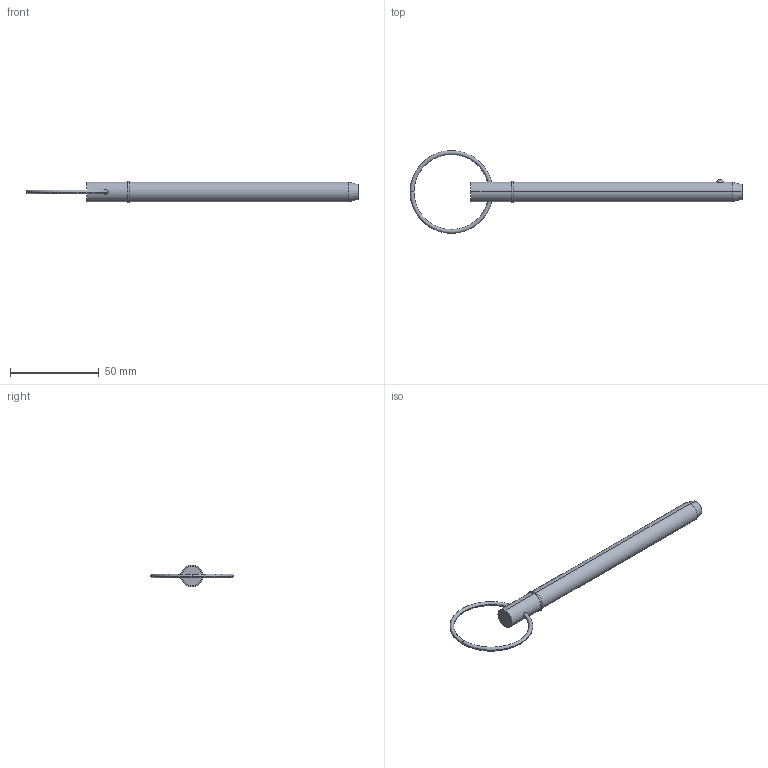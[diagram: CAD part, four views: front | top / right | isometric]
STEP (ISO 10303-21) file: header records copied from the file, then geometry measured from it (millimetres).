
FILE_DESCRIPTION (( 'STEP AP203' ), '1' );
FILE_NAME ('33016.W4345.step', '2024-11-07T11:07:48', ( '' ), ( '' ), 'SwSTEP 2.0', 'SolidWorks 2019', '' );
FILE_SCHEMA (( 'CONFIG_CONTROL_DESIGN' ));
Length unit declared in the file: millimetre
Products named in the file (3): Part1_33016.W4345; Part2_33016.W4345; 33016.W4345
Assembly tree (2 placements, depth 2):
  33016.W4345
    Part1_33016.W4345
    Part2_33016.W4345
Bounding box: 186.92 x 46.67 x 12.22 mm (x, y, z)
Volume: 15196.7 mm3; surface area: 6576 mm2
Topology: 2 solids, 2 shells, 22 faces, 43 edges, 26 vertices
Faces by surface type: torus 8, cylinder 6, plane 4, sphere 2, cone 2
Entity records: 1023 total; most frequent: CARTESIAN_POINT 246, DIRECTION 120, ORIENTED_EDGE 86, AXIS2_PLACEMENT_3D 56, EDGE_CURVE 43, CIRCLE 29, EDGE_LOOP 27, VERTEX_POINT 26
